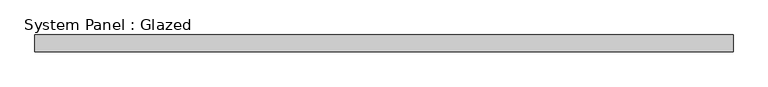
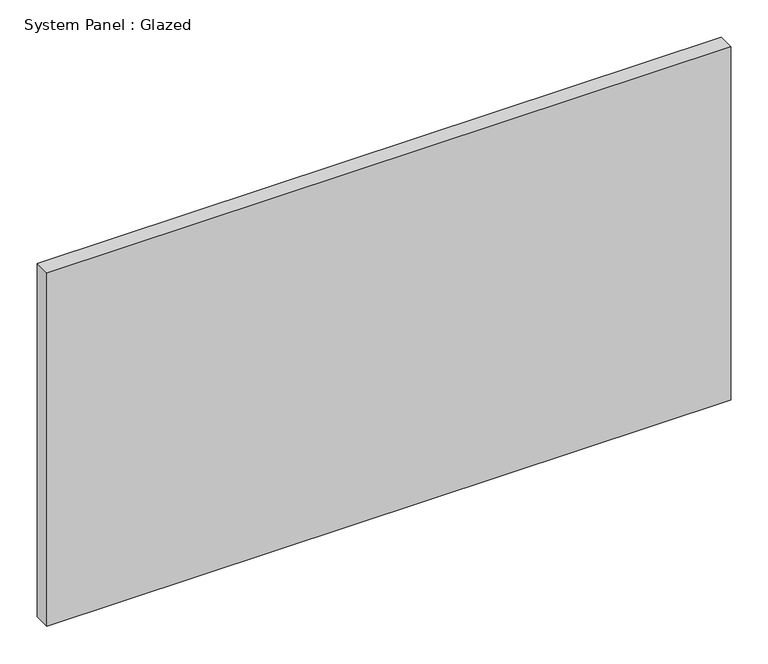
"""IFC4 building model written with IfcOpenShell, lengths in millimetres: plate geometry, System Panel : Glazed."""

import ifcopenshell
import ifcopenshell.guid

model = None  # the IFC model being written
_history = None  # IfcOwnerHistory: only IFC2X3 demands one
_inside = {}  # id of a spatial element -> (the spatial element, [elements in it])
_under = {}  # id of a project, library or spatial element -> (it, [spatial elements below it])
_declared = {}  # id of a project -> (the project, [libraries it declares])
_typed = {}  # id of a type object -> (the type object, [elements of that type])
_made_of = {}  # id of a material, layer set ... -> (it, [elements and type objects made of it])


def new_model(schema):
    """Start an empty IFC model of exactly this schema.

    Asked for "IFC4X3", IfcOpenShell would pick the latest addendum, in which some entities
    have other attributes; the version numbers below select the first issue.
    IFC2X3 requires an IfcOwnerHistory on every rooted entity: one is made here for all.
    """
    global model, _history
    if schema == "IFC4X3":
        model = ifcopenshell.file(schema_version=(4, 3, 0, 0))
    else:
        model = ifcopenshell.file(schema=schema)
    _inside.clear()
    _under.clear()
    _declared.clear()
    _typed.clear()
    _made_of.clear()
    _history = None
    if model.schema == "IFC2X3":
        org = make("IfcOrganization", Name="unknown")
        user = make(
            "IfcPersonAndOrganization",
            ThePerson=make("IfcPerson", FamilyName="unknown"),
            TheOrganization=org,
        )
        app = make(
            "IfcApplication",
            ApplicationDeveloper=org,
            Version="unknown",
            ApplicationFullName="unknown",
            ApplicationIdentifier="unknown",
        )
        _history = make(
            "IfcOwnerHistory",
            OwningUser=user,
            OwningApplication=app,
            ChangeAction="ADDED",
            CreationDate=0,
        )
    return model


def make(cls, **values):
    """One entity of the class cls with the attributes given. An attribute that is None is left unset."""
    return model.create_entity(
        cls, **{name: value for name, value in values.items() if value is not None}
    )


def rooted(cls, **values):
    """An entity with a GlobalId (a new one), such as an element, a storey or a relation."""
    return make(cls, GlobalId=ifcopenshell.guid.new(), OwnerHistory=_history, **values)


def si_unit(unit_type, name, prefix=None):
    """IfcSIUnit, for example si_unit("LENGTHUNIT", "METRE", prefix="MILLI")."""
    return make("IfcSIUnit", UnitType=unit_type, Prefix=prefix, Name=name)


def assignment(units):
    """IfcUnitAssignment: the units of a project."""
    return None if units is None else make("IfcUnitAssignment", Units=units)


def point(xyz):
    """IfcCartesianPoint."""
    return None if xyz is None else make("IfcCartesianPoint", Coordinates=xyz)


def direction(xyz):
    """IfcDirection."""
    return None if xyz is None else make("IfcDirection", DirectionRatios=xyz)


def frame(location, z_axis=None, x_axis=None):
    """IfcAxis2Placement3D, a coordinate frame: its origin and axes. An axis left out is left unset."""
    return make(
        "IfcAxis2Placement3D",
        Location=point(location),
        Axis=direction(z_axis),
        RefDirection=direction(x_axis),
    )


def origin():
    """The frame at (0, 0, 0) with its axes left unset."""
    return frame((0.0, 0.0, 0.0))


def origin_with_axes():
    """The frame at (0, 0, 0) with the z axis (0, 0, 1) and the x axis (1, 0, 0) written out."""
    return frame((0.0, 0.0, 0.0), z_axis=(0.0, 0.0, 1.0), x_axis=(1.0, 0.0, 0.0))


def place(relative_to, where):
    """IfcLocalPlacement: puts the frame where relative to a parent placement (None: the world)."""
    return make(
        "IfcLocalPlacement", PlacementRelTo=relative_to, RelativePlacement=where
    )


def context(
    kind, dimensions, precision=None, world=None, true_north=None, identifier=None
):
    """IfcGeometricRepresentationContext, for example the 3D "Model" context."""
    return make(
        "IfcGeometricRepresentationContext",
        ContextIdentifier=identifier,
        ContextType=kind,
        CoordinateSpaceDimension=dimensions,
        Precision=precision,
        WorldCoordinateSystem=world,
        TrueNorth=true_north,
    )


def project(units=None, contexts=None):
    """IfcProject with its units and contexts."""
    return rooted(
        "IfcProject",
        Name="project",
        RepresentationContexts=contexts,
        UnitsInContext=assignment(units),
    )


def spatial(cls, under=None, at=None, **own):
    """A site, building, storey or space (cls), placed at a placement, below another one or the project."""
    s = rooted(cls, ObjectPlacement=at, **own)
    if under is not None:
        _under.setdefault(under.id(), (under, []))[1].append(s)
    return s


def polyline(points):
    """IfcPolyline through the points."""
    return make("IfcPolyline", Points=[point(p) for p in points])


def outline(outer, holes=None, kind="AREA"):
    """IfcArbitraryClosedProfileDef: a profile drawn as a closed curve; with holes, ...WithVoids."""
    if holes is None:
        return make("IfcArbitraryClosedProfileDef", ProfileType=kind, OuterCurve=outer)
    return make(
        "IfcArbitraryProfileDefWithVoids",
        ProfileType=kind,
        OuterCurve=outer,
        InnerCurves=holes,
    )


def extrude(swept, where, along, depth):
    """IfcExtrudedAreaSolid: the profile swept, set in the frame where, extruded along a direction by depth."""
    return make(
        "IfcExtrudedAreaSolid",
        SweptArea=swept,
        Position=where,
        ExtrudedDirection=direction(along),
        Depth=depth,
    )


def shape(context_of_items, identifier, shape_type, items):
    """IfcShapeRepresentation: the items that make up one representation, for example the "Body"."""
    return make(
        "IfcShapeRepresentation",
        ContextOfItems=context_of_items,
        RepresentationIdentifier=identifier,
        RepresentationType=shape_type,
        Items=items,
    )


def source(mapping_origin, context_of_items, identifier, shape_type, items):
    """IfcRepresentationMap: a shape defined once, which mapped items show again and again."""
    return make(
        "IfcRepresentationMap",
        MappingOrigin=mapping_origin,
        MappedRepresentation=shape(context_of_items, identifier, shape_type, items),
    )


def transform(
    local_origin,
    x_axis=None,
    y_axis=None,
    z_axis=None,
    scale=None,
    scale2=None,
    scale3=None,
    uniform=True,
):
    """IfcCartesianTransformationOperator3D, or its non-uniform kind. x_axis, y_axis, z_axis: its Axis1, 2, 3."""
    if uniform:
        return make(
            "IfcCartesianTransformationOperator3D",
            Axis1=direction(x_axis),
            Axis2=direction(y_axis),
            LocalOrigin=point(local_origin),
            Scale=scale,
            Axis3=direction(z_axis),
        )
    return make(
        "IfcCartesianTransformationOperator3DnonUniform",
        Axis1=direction(x_axis),
        Axis2=direction(y_axis),
        LocalOrigin=point(local_origin),
        Scale=scale,
        Axis3=direction(z_axis),
        Scale2=scale2,
        Scale3=scale3,
    )


def mapped(mapping_source, mapping_target):
    """IfcMappedItem: shows the shape of a source again, moved by a transform."""
    return make(
        "IfcMappedItem", MappingSource=mapping_source, MappingTarget=mapping_target
    )


def made_of(thing, what):
    """Note that an element or type object is made of a material, layer set ...; save() writes the relation."""
    if what is not None:
        _made_of.setdefault(what.id(), (what, []))[1].append(thing)
    return thing


def element(
    cls,
    number,
    at=None,
    inside=None,
    cuts=None,
    type_object=None,
    material=None,
    context=None,
    identifier="Body",
    shape_type=None,
    held_by="IfcProductDefinitionShape",
    body=None,
    shapes=None,
    **own,
):
    """One element of the class cls, such as IfcWall. Its Tag is "e" and its number.

    at: its placement. inside: the storey or other place that contains it. cuts: it is an
    opening in that element (IfcRelVoidsElement). A single representation is given by context,
    identifier, shape_type and body (its items); several are given by shapes. held_by: the class
    of the entity that holds the representations. save() writes the other relations.
    """
    e = rooted(cls, Tag="e%d" % number, ObjectPlacement=at, **own)
    if body is not None:
        shapes = [shape(context, identifier, shape_type, body)]
    if shapes is not None:
        e.Representation = make(held_by, Representations=shapes)
    if inside is not None:
        _inside.setdefault(inside.id(), (inside, []))[1].append(e)
    if cuts is not None:
        rooted(
            "IfcRelVoidsElement", RelatingBuildingElement=cuts, RelatedOpeningElement=e
        )
    if type_object is not None:
        _typed.setdefault(type_object.id(), (type_object, []))[1].append(e)
    return made_of(e, material)


def aggregate(whole, parts):
    """IfcRelAggregates: a whole, such as a stair, and the parts it consists of."""
    return rooted("IfcRelAggregates", RelatingObject=whole, RelatedObjects=parts)


def save(model, path):
    """Write the relations noted so far, then the file.

    IfcRelAggregates (storeys below a building ...), IfcRelContainedInSpatialStructure (elements
    in a storey), IfcRelDefinesByType, IfcRelAssociatesMaterial and IfcRelDeclares: one each for
    every whole, place, type object, material and project.
    """
    for whole, parts in _under.values():
        aggregate(whole, parts)
    for where, things in _inside.values():
        rooted(
            "IfcRelContainedInSpatialStructure",
            RelatedElements=things,
            RelatingStructure=where,
        )
    for kind, things in _typed.values():
        rooted("IfcRelDefinesByType", RelatedObjects=things, RelatingType=kind)
    for what, things in _made_of.values():
        rooted("IfcRelAssociatesMaterial", RelatedObjects=things, RelatingMaterial=what)
    for by, libraries in _declared.values():
        rooted("IfcRelDeclares", RelatingContext=by, RelatedDefinitions=libraries)
    model.write(path)


def system_panel_glazed_8b3f1d98(model_context):
    return source(origin(), model_context, "Body", "SweptSolid", [
        extrude(outline(polyline([(528.4107143, 19.05), (-528.4107143, 19.05), (-528.4107143, 44.45), (528.4107143, 44.45), (528.4107143, 19.05)])), origin_with_axes(), (0.0, 0.0, 1.0), 577.85),
    ])


if __name__ == "__main__":
    model = new_model("IFC4")
    model_context = context("Model", 3, world=origin())
    ifc_project = project(units=[si_unit("LENGTHUNIT", "METRE", prefix="MILLI")], contexts=[model_context])
    site = spatial("IfcSite", under=ifc_project)
    building = spatial("IfcBuilding", under=site)
    placement = place(None, origin())
    system_panel_glazed_shape = system_panel_glazed_8b3f1d98(model_context)
    element("IfcPlate", 1, ObjectType="System Panel : Glazed", at=placement, inside=building, context=model_context, shape_type="MappedRepresentation", body=[
        mapped(system_panel_glazed_shape, transform((0.0, 0.0, 0.0), x_axis=(1.0, 0.0, 0.0), y_axis=(0.0, 1.0, 0.0), z_axis=(0.0, 0.0, 1.0))),
    ])
    save(model, "model.ifc")
